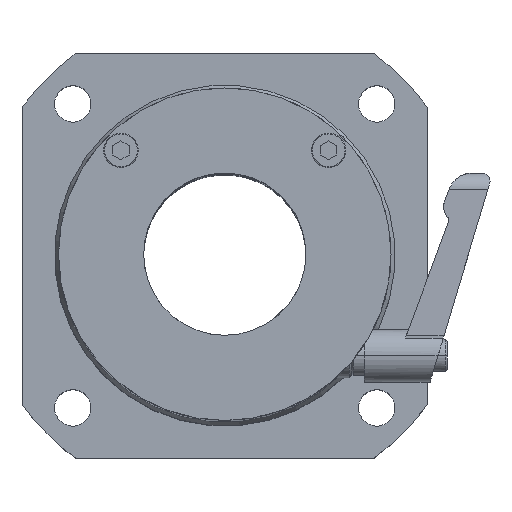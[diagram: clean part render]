
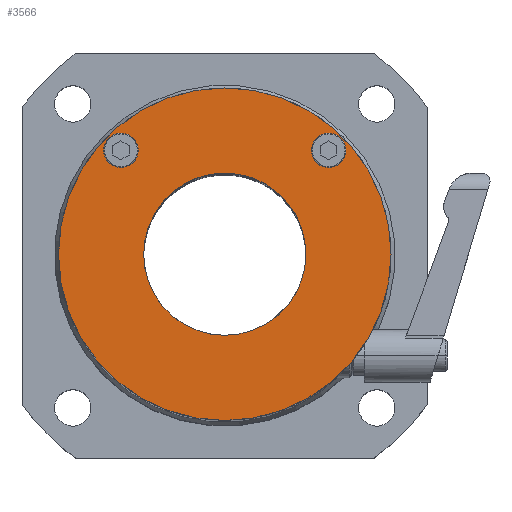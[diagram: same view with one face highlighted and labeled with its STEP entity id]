
A CAD part, top view. The second image highlights one B-rep face of the part: STEP entity #3566.
In plain terms, the highlighted planar face has unit normal (0, 0, 1).
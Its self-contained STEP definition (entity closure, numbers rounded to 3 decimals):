
#327 = CIRCLE ( 'NONE', #2688, 20. ) ;
#379 = ORIENTED_EDGE ( 'NONE', *, *, #900, .F. ) ;
#392 = ORIENTED_EDGE ( 'NONE', *, *, #8073, .F. ) ;
#509 = CARTESIAN_POINT ( 'NONE',  ( 0.222, -3.051, 92. ) ) ;
#900 = EDGE_CURVE ( 'NONE', #7566, #8370, #6736, .T. ) ;
#1181 = DIRECTION ( 'NONE',  ( 1., 0., 0. ) ) ;
#1353 = EDGE_LOOP ( 'NONE', ( #4468, #379 ) ) ;
#1415 = EDGE_LOOP ( 'NONE', ( #392, #7922 ) ) ;
#1855 = AXIS2_PLACEMENT_3D ( 'NONE', #7573, #9119, #2207 ) ;
#1977 = FACE_BOUND ( 'NONE', #1353, .T. ) ;
#2141 = VERTEX_POINT ( 'NONE', #2270 ) ;
#2207 = DIRECTION ( 'NONE',  ( 1., 0., 0. ) ) ;
#2270 = CARTESIAN_POINT ( 'NONE',  ( 41.222, -3.051, 92. ) ) ;
#2356 = CARTESIAN_POINT ( 'NONE',  ( -21.128, 22.549, 92. ) ) ;
#2534 = DIRECTION ( 'NONE',  ( 0., 0., 1. ) ) ;
#2652 = CARTESIAN_POINT ( 'NONE',  ( 30.072, 22.549, 92. ) ) ;
#2688 = AXIS2_PLACEMENT_3D ( 'NONE', #9575, #7968, #1181 ) ;
#2705 = CARTESIAN_POINT ( 'NONE',  ( 0.222, -3.051, 92. ) ) ;
#2784 = DIRECTION ( 'NONE',  ( 0., 0., 1. ) ) ;
#2952 = CARTESIAN_POINT ( 'NONE',  ( 25.822, 22.549, 92. ) ) ;
#3319 = VERTEX_POINT ( 'NONE', #5342 ) ;
#3444 = FACE_BOUND ( 'NONE', #1415, .T. ) ;
#3485 = DIRECTION ( 'NONE',  ( 1., 0., 0. ) ) ;
#3566 = ADVANCED_FACE ( 'NONE', ( #9694, #3444, #5857, #1977 ), #3650, .T. ) ;
#3650 = PLANE ( 'NONE',  #8777 ) ;
#3820 = DIRECTION ( 'NONE',  ( 1., 0., 0. ) ) ;
#3832 = EDGE_CURVE ( 'NONE', #4059, #3894, #8301, .T. ) ;
#3879 = DIRECTION ( 'NONE',  ( 0., 0., 1. ) ) ;
#3894 = VERTEX_POINT ( 'NONE', #5543 ) ;
#4059 = VERTEX_POINT ( 'NONE', #2652 ) ;
#4160 = DIRECTION ( 'NONE',  ( 0., 0., 1. ) ) ;
#4177 = VERTEX_POINT ( 'NONE', #2356 ) ;
#4379 = CARTESIAN_POINT ( 'NONE',  ( 0.222, -3.051, 92. ) ) ;
#4468 = ORIENTED_EDGE ( 'NONE', *, *, #9769, .F. ) ;
#4715 = EDGE_CURVE ( 'NONE', #5846, #2141, #6647, .T. ) ;
#4901 = CARTESIAN_POINT ( 'NONE',  ( -25.378, 22.549, 92. ) ) ;
#5051 = EDGE_CURVE ( 'NONE', #4177, #3319, #5805, .T. ) ;
#5115 = ORIENTED_EDGE ( 'NONE', *, *, #7087, .F. ) ;
#5224 = CARTESIAN_POINT ( 'NONE',  ( -40.778, -3.051, 92. ) ) ;
#5342 = CARTESIAN_POINT ( 'NONE',  ( -29.628, 22.549, 92. ) ) ;
#5543 = CARTESIAN_POINT ( 'NONE',  ( 21.572, 22.549, 92. ) ) ;
#5573 = AXIS2_PLACEMENT_3D ( 'NONE', #9635, #9730, #3485 ) ;
#5644 = DIRECTION ( 'NONE',  ( 1., 0., 0. ) ) ;
#5792 = ORIENTED_EDGE ( 'NONE', *, *, #4715, .T. ) ;
#5793 = DIRECTION ( 'NONE',  ( 0., 0., 1. ) ) ;
#5805 = CIRCLE ( 'NONE', #8563, 4.25 ) ;
#5846 = VERTEX_POINT ( 'NONE', #5224 ) ;
#5857 = FACE_OUTER_BOUND ( 'NONE', #6226, .T. ) ;
#5941 = AXIS2_PLACEMENT_3D ( 'NONE', #2952, #3879, #3820 ) ;
#5956 = CARTESIAN_POINT ( 'NONE',  ( 20.222, -3.051, 92. ) ) ;
#6226 = EDGE_LOOP ( 'NONE', ( #5792, #7815 ) ) ;
#6631 = DIRECTION ( 'NONE',  ( 1., 0., 0. ) ) ;
#6633 = ORIENTED_EDGE ( 'NONE', *, *, #3832, .F. ) ;
#6647 = CIRCLE ( 'NONE', #6994, 41. ) ;
#6731 = DIRECTION ( 'NONE',  ( 0., 0., 1. ) ) ;
#6736 = CIRCLE ( 'NONE', #8026, 20. ) ;
#6994 = AXIS2_PLACEMENT_3D ( 'NONE', #4379, #6731, #6631 ) ;
#7028 = CARTESIAN_POINT ( 'NONE',  ( -19.778, -3.051, 92. ) ) ;
#7087 = EDGE_CURVE ( 'NONE', #3894, #4059, #7233, .T. ) ;
#7213 = CIRCLE ( 'NONE', #9298, 41. ) ;
#7233 = CIRCLE ( 'NONE', #5941, 4.25 ) ;
#7238 = DIRECTION ( 'NONE',  ( 1., 0., 0. ) ) ;
#7566 = VERTEX_POINT ( 'NONE', #5956 ) ;
#7573 = CARTESIAN_POINT ( 'NONE',  ( 25.822, 22.549, 92. ) ) ;
#7815 = ORIENTED_EDGE ( 'NONE', *, *, #9611, .T. ) ;
#7821 = EDGE_LOOP ( 'NONE', ( #5115, #6633 ) ) ;
#7823 = CIRCLE ( 'NONE', #5573, 4.25 ) ;
#7922 = ORIENTED_EDGE ( 'NONE', *, *, #5051, .F. ) ;
#7968 = DIRECTION ( 'NONE',  ( 0., 0., 1. ) ) ;
#8026 = AXIS2_PLACEMENT_3D ( 'NONE', #2705, #5793, #5644 ) ;
#8029 = DIRECTION ( 'NONE',  ( 1., 0., 0. ) ) ;
#8073 = EDGE_CURVE ( 'NONE', #3319, #4177, #7823, .T. ) ;
#8301 = CIRCLE ( 'NONE', #1855, 4.25 ) ;
#8370 = VERTEX_POINT ( 'NONE', #7028 ) ;
#8494 = CARTESIAN_POINT ( 'NONE',  ( 0.222, -3.051, 92. ) ) ;
#8563 = AXIS2_PLACEMENT_3D ( 'NONE', #4901, #4160, #7238 ) ;
#8777 = AXIS2_PLACEMENT_3D ( 'NONE', #509, #2784, #8029 ) ;
#9119 = DIRECTION ( 'NONE',  ( 0., 0., 1. ) ) ;
#9298 = AXIS2_PLACEMENT_3D ( 'NONE', #8494, #2534, #9349 ) ;
#9349 = DIRECTION ( 'NONE',  ( 1., 0., 0. ) ) ;
#9575 = CARTESIAN_POINT ( 'NONE',  ( 0.222, -3.051, 92. ) ) ;
#9611 = EDGE_CURVE ( 'NONE', #2141, #5846, #7213, .T. ) ;
#9635 = CARTESIAN_POINT ( 'NONE',  ( -25.378, 22.549, 92. ) ) ;
#9694 = FACE_BOUND ( 'NONE', #7821, .T. ) ;
#9730 = DIRECTION ( 'NONE',  ( 0., 0., 1. ) ) ;
#9769 = EDGE_CURVE ( 'NONE', #8370, #7566, #327, .T. ) ;
